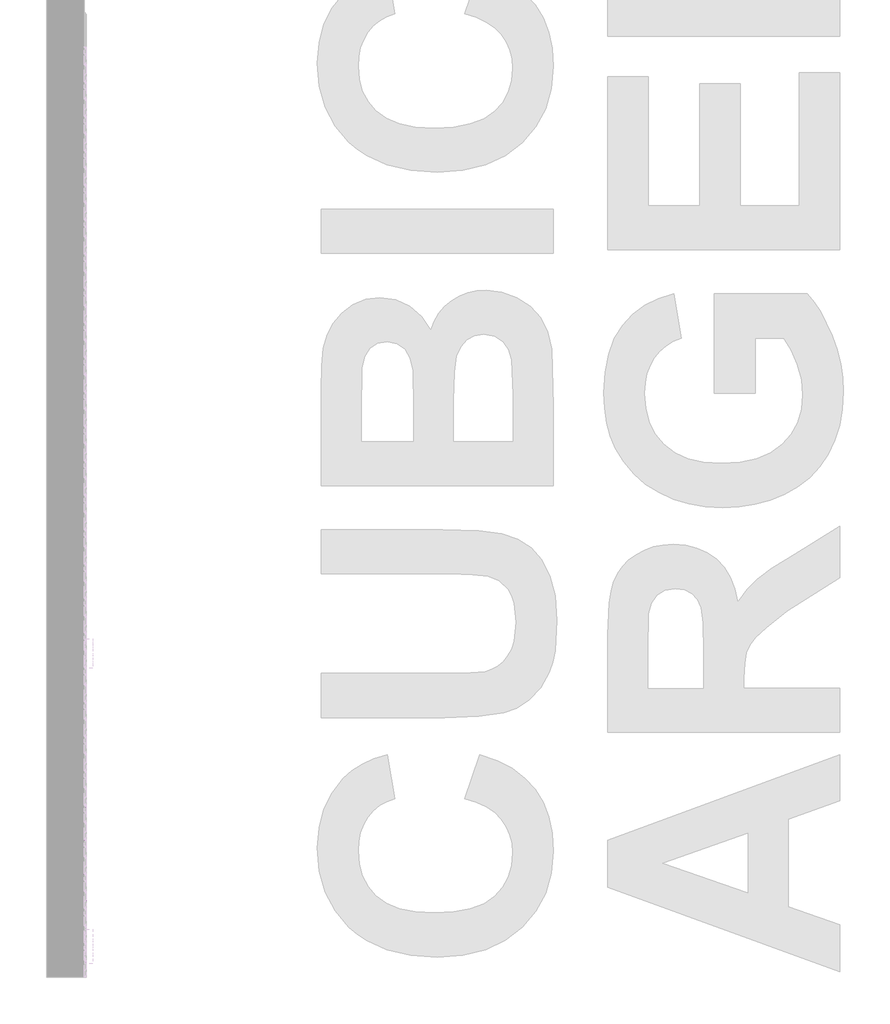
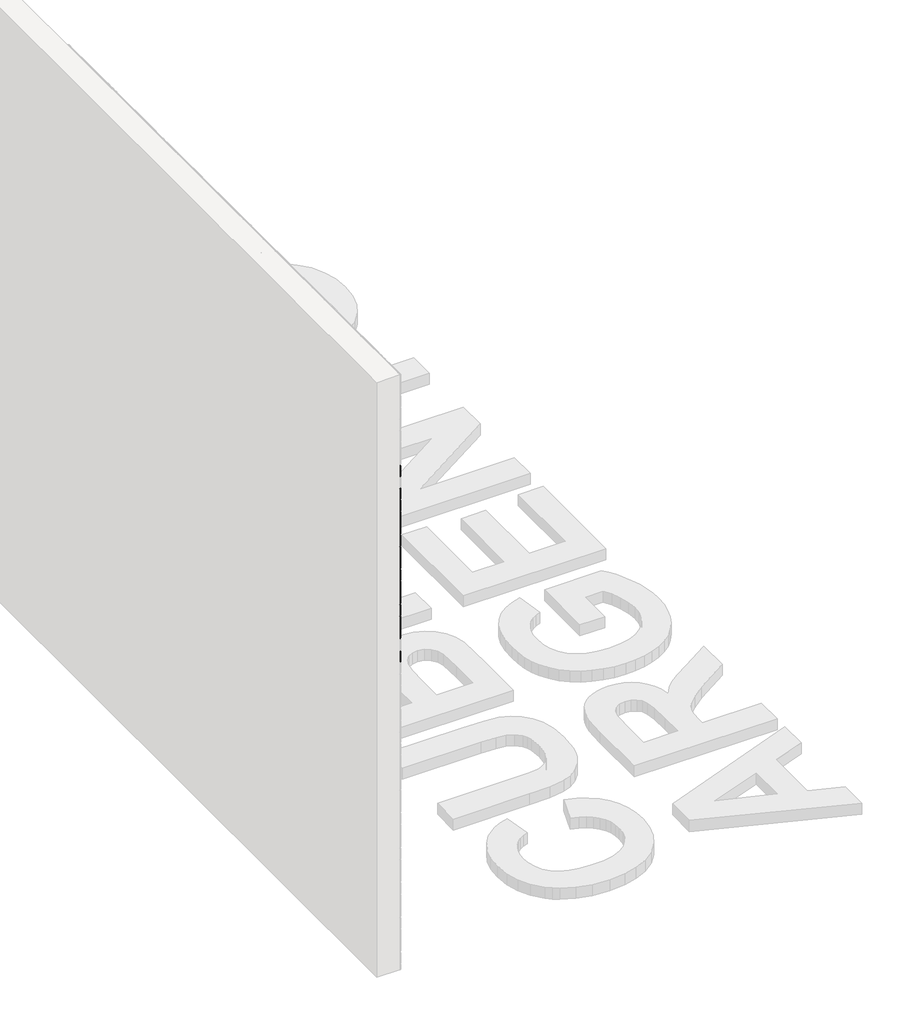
# One storey, part 3 of 121: 144 proxies.
"""IFC4 building model written with IfcOpenShell, lengths in millimetres."""

from ifc_helpers import new_model, si_unit, origin, place, context, project, spatial, transform, mapped, element, save
from components import generic_models_b2b2c5c1, generic_models_9bf73f6f, generic_models_5d175859, generic_models_45888c4d

model = new_model("IFC4")

# Units and contexts
model_context = context("Model", 3, world=origin())
ifc_project = project(units=[si_unit("LENGTHUNIT", "METRE", prefix="MILLI")], contexts=[model_context])

# Site, building, storey
site = spatial("IfcSite", under=ifc_project)
building = spatial("IfcBuilding", under=site)
storey = spatial("IfcBuildingStorey", under=building, Name="PORTOBELLO - SHOWROOM", Elevation=0.0)

# Proxies
placement = place(None, origin())
generic_models_shape = generic_models_b2b2c5c1(model_context)
element("IfcBuildingElementProxy", 1, Name="PBSHOP - CUBICA ARGENTO 4,8X8,3 : CUBICA ARGENTO - POSIÇÃO 01", ObjectType="PBSHOP - CUBICA ARGENTO 4,8X8,3 : CUBICA ARGENTO - POSIÇÃO 01", at=placement, inside=storey, context=model_context, shape_type="MappedRepresentation", body=[
    mapped(generic_models_shape, transform((150369.5341846, -6312.6129852, 1460.2456575), x_axis=(0.0, 1.0, 0.0), y_axis=(0.0, 0.0, 1.0), z_axis=(1.0, 0.0, 0.0))),
])
element("IfcBuildingElementProxy", 2, Name="PBSHOP - CUBICA ARGENTO 4,8X8,3 : CUBICA ARGENTO - POSIÇÃO 01", ObjectType="PBSHOP - CUBICA ARGENTO 4,8X8,3 : CUBICA ARGENTO - POSIÇÃO 01", at=placement, inside=storey, context=model_context, shape_type="MappedRepresentation", body=[
    mapped(generic_models_shape, transform((150369.5341846, -6221.7737159, 1460.2456575), x_axis=(0.0, 1.0, 0.0), y_axis=(0.0, 0.0, 1.0), z_axis=(1.0, 0.0, 0.0))),
])
element("IfcBuildingElementProxy", 3, Name="PBSHOP - CUBICA ARGENTO 4,8X8,3 : CUBICA ARGENTO - POSIÇÃO 01", ObjectType="PBSHOP - CUBICA ARGENTO 4,8X8,3 : CUBICA ARGENTO - POSIÇÃO 01", at=placement, inside=storey, context=model_context, shape_type="MappedRepresentation", body=[
    mapped(generic_models_shape, transform((150369.5341846, -6130.9344467, 1460.2456575), x_axis=(0.0, 1.0, 0.0), y_axis=(0.0, 0.0, 1.0), z_axis=(1.0, 0.0, 0.0))),
])
element("IfcBuildingElementProxy", 4, Name="PBSHOP - CUBICA ARGENTO 4,8X8,3 : CUBICA ARGENTO - POSIÇÃO 01", ObjectType="PBSHOP - CUBICA ARGENTO 4,8X8,3 : CUBICA ARGENTO - POSIÇÃO 01", at=placement, inside=storey, context=model_context, shape_type="MappedRepresentation", body=[
    mapped(generic_models_shape, transform((150369.5341846, -6040.0951775, 1460.2456575), x_axis=(0.0, 1.0, 0.0), y_axis=(0.0, 0.0, 1.0), z_axis=(1.0, 0.0, 0.0))),
])
element("IfcBuildingElementProxy", 5, Name="PBSHOP - CUBICA ARGENTO 4,8X8,3 : CUBICA ARGENTO - POSIÇÃO 01", ObjectType="PBSHOP - CUBICA ARGENTO 4,8X8,3 : CUBICA ARGENTO - POSIÇÃO 01", at=placement, inside=storey, context=model_context, shape_type="MappedRepresentation", body=[
    mapped(generic_models_shape, transform((150369.5341846, -6358.0326198, 1539.1802959), x_axis=(0.0, 1.0, 0.0), y_axis=(0.0, 0.0, 1.0), z_axis=(1.0, 0.0, 0.0))),
])
element("IfcBuildingElementProxy", 6, Name="PBSHOP - CUBICA ARGENTO 4,8X8,3 : CUBICA ARGENTO - POSIÇÃO 01", ObjectType="PBSHOP - CUBICA ARGENTO 4,8X8,3 : CUBICA ARGENTO - POSIÇÃO 01", at=placement, inside=storey, context=model_context, shape_type="MappedRepresentation", body=[
    mapped(generic_models_shape, transform((150369.5341846, -6267.1933506, 1539.1802959), x_axis=(0.0, 1.0, 0.0), y_axis=(0.0, 0.0, 1.0), z_axis=(1.0, 0.0, 0.0))),
])
element("IfcBuildingElementProxy", 7, Name="PBSHOP - CUBICA ARGENTO 4,8X8,3 : CUBICA ARGENTO - POSIÇÃO 01", ObjectType="PBSHOP - CUBICA ARGENTO 4,8X8,3 : CUBICA ARGENTO - POSIÇÃO 01", at=placement, inside=storey, context=model_context, shape_type="MappedRepresentation", body=[
    mapped(generic_models_shape, transform((150369.5341846, -6176.3540813, 1539.1802959), x_axis=(0.0, 1.0, 0.0), y_axis=(0.0, 0.0, 1.0), z_axis=(1.0, 0.0, 0.0))),
])
element("IfcBuildingElementProxy", 8, Name="PBSHOP - CUBICA ARGENTO 4,8X8,3 : CUBICA ARGENTO - POSIÇÃO 01", ObjectType="PBSHOP - CUBICA ARGENTO 4,8X8,3 : CUBICA ARGENTO - POSIÇÃO 01", at=placement, inside=storey, context=model_context, shape_type="MappedRepresentation", body=[
    mapped(generic_models_shape, transform((150369.5341846, -6085.5148121, 1539.1802959), x_axis=(0.0, 1.0, 0.0), y_axis=(0.0, 0.0, 1.0), z_axis=(1.0, 0.0, 0.0))),
])
element("IfcBuildingElementProxy", 9, Name="PBSHOP - CUBICA ARGENTO 4,8X8,3 : CUBICA ARGENTO - POSIÇÃO 01", ObjectType="PBSHOP - CUBICA ARGENTO 4,8X8,3 : CUBICA ARGENTO - POSIÇÃO 01", at=placement, inside=storey, context=model_context, shape_type="MappedRepresentation", body=[
    mapped(generic_models_shape, transform((150369.5341846, -6403.4522544, 1618.1149343), x_axis=(0.0, 1.0, 0.0), y_axis=(0.0, 0.0, 1.0), z_axis=(1.0, 0.0, 0.0))),
])
element("IfcBuildingElementProxy", 10, Name="PBSHOP - CUBICA ARGENTO 4,8X8,3 : CUBICA ARGENTO - POSIÇÃO 01", ObjectType="PBSHOP - CUBICA ARGENTO 4,8X8,3 : CUBICA ARGENTO - POSIÇÃO 01", at=placement, inside=storey, context=model_context, shape_type="MappedRepresentation", body=[
    mapped(generic_models_shape, transform((150369.5341846, -6312.6129852, 1618.1149343), x_axis=(0.0, 1.0, 0.0), y_axis=(0.0, 0.0, 1.0), z_axis=(1.0, 0.0, 0.0))),
])
element("IfcBuildingElementProxy", 11, Name="PBSHOP - CUBICA ARGENTO 4,8X8,3 : CUBICA ARGENTO - POSIÇÃO 01", ObjectType="PBSHOP - CUBICA ARGENTO 4,8X8,3 : CUBICA ARGENTO - POSIÇÃO 01", at=placement, inside=storey, context=model_context, shape_type="MappedRepresentation", body=[
    mapped(generic_models_shape, transform((150369.5341846, -6221.7737159, 1618.1149343), x_axis=(0.0, 1.0, 0.0), y_axis=(0.0, 0.0, 1.0), z_axis=(1.0, 0.0, 0.0))),
])
element("IfcBuildingElementProxy", 12, Name="PBSHOP - CUBICA ARGENTO 4,8X8,3 : CUBICA ARGENTO - POSIÇÃO 01", ObjectType="PBSHOP - CUBICA ARGENTO 4,8X8,3 : CUBICA ARGENTO - POSIÇÃO 01", at=placement, inside=storey, context=model_context, shape_type="MappedRepresentation", body=[
    mapped(generic_models_shape, transform((150369.5341846, -6130.9344467, 1618.1149343), x_axis=(0.0, 1.0, 0.0), y_axis=(0.0, 0.0, 1.0), z_axis=(1.0, 0.0, 0.0))),
])
element("IfcBuildingElementProxy", 13, Name="PBSHOP - CUBICA ARGENTO 4,8X8,3 : CUBICA ARGENTO - POSIÇÃO 01", ObjectType="PBSHOP - CUBICA ARGENTO 4,8X8,3 : CUBICA ARGENTO - POSIÇÃO 01", at=placement, inside=storey, context=model_context, shape_type="MappedRepresentation", body=[
    mapped(generic_models_shape, transform((150369.5341846, -6040.0951775, 1618.1149343), x_axis=(0.0, 1.0, 0.0), y_axis=(0.0, 0.0, 1.0), z_axis=(1.0, 0.0, 0.0))),
])
element("IfcBuildingElementProxy", 14, Name="PBSHOP - CUBICA ARGENTO 4,8X8,3 : CUBICA ARGENTO - POSIÇÃO 01", ObjectType="PBSHOP - CUBICA ARGENTO 4,8X8,3 : CUBICA ARGENTO - POSIÇÃO 01", at=placement, inside=storey, context=model_context, shape_type="MappedRepresentation", body=[
    mapped(generic_models_shape, transform((150369.5341846, -6358.0326198, 1697.0495727), x_axis=(0.0, 1.0, 0.0), y_axis=(0.0, 0.0, 1.0), z_axis=(1.0, 0.0, 0.0))),
])
element("IfcBuildingElementProxy", 15, Name="PBSHOP - CUBICA ARGENTO 4,8X8,3 : CUBICA ARGENTO - POSIÇÃO 01", ObjectType="PBSHOP - CUBICA ARGENTO 4,8X8,3 : CUBICA ARGENTO - POSIÇÃO 01", at=placement, inside=storey, context=model_context, shape_type="MappedRepresentation", body=[
    mapped(generic_models_shape, transform((150369.5341846, -6267.1933506, 1697.0495727), x_axis=(0.0, 1.0, 0.0), y_axis=(0.0, 0.0, 1.0), z_axis=(1.0, 0.0, 0.0))),
])
element("IfcBuildingElementProxy", 16, Name="PBSHOP - CUBICA ARGENTO 4,8X8,3 : CUBICA ARGENTO - POSIÇÃO 01", ObjectType="PBSHOP - CUBICA ARGENTO 4,8X8,3 : CUBICA ARGENTO - POSIÇÃO 01", at=placement, inside=storey, context=model_context, shape_type="MappedRepresentation", body=[
    mapped(generic_models_shape, transform((150369.5341846, -6176.3540813, 1697.0495727), x_axis=(0.0, 1.0, 0.0), y_axis=(0.0, 0.0, 1.0), z_axis=(1.0, 0.0, 0.0))),
])
element("IfcBuildingElementProxy", 17, Name="PBSHOP - CUBICA ARGENTO 4,8X8,3 : CUBICA ARGENTO - POSIÇÃO 01", ObjectType="PBSHOP - CUBICA ARGENTO 4,8X8,3 : CUBICA ARGENTO - POSIÇÃO 01", at=placement, inside=storey, context=model_context, shape_type="MappedRepresentation", body=[
    mapped(generic_models_shape, transform((150369.5341846, -6085.5148121, 1697.0495727), x_axis=(0.0, 1.0, 0.0), y_axis=(0.0, 0.0, 1.0), z_axis=(1.0, 0.0, 0.0))),
])
element("IfcBuildingElementProxy", 18, Name="PBSHOP - CUBICA ARGENTO 4,8X8,3 : CUBICA ARGENTO - POSIÇÃO 01", ObjectType="PBSHOP - CUBICA ARGENTO 4,8X8,3 : CUBICA ARGENTO - POSIÇÃO 01", at=placement, inside=storey, context=model_context, shape_type="MappedRepresentation", body=[
    mapped(generic_models_shape, transform((150369.5341846, -6403.4522544, 1775.984211), x_axis=(0.0, 1.0, 0.0), y_axis=(0.0, 0.0, 1.0), z_axis=(1.0, 0.0, 0.0))),
])
element("IfcBuildingElementProxy", 19, Name="PBSHOP - CUBICA ARGENTO 4,8X8,3 : CUBICA ARGENTO - POSIÇÃO 01", ObjectType="PBSHOP - CUBICA ARGENTO 4,8X8,3 : CUBICA ARGENTO - POSIÇÃO 01", at=placement, inside=storey, context=model_context, shape_type="MappedRepresentation", body=[
    mapped(generic_models_shape, transform((150369.5341846, -6312.6129852, 1775.984211), x_axis=(0.0, 1.0, 0.0), y_axis=(0.0, 0.0, 1.0), z_axis=(1.0, 0.0, 0.0))),
])
element("IfcBuildingElementProxy", 20, Name="PBSHOP - CUBICA ARGENTO 4,8X8,3 : CUBICA ARGENTO - POSIÇÃO 01", ObjectType="PBSHOP - CUBICA ARGENTO 4,8X8,3 : CUBICA ARGENTO - POSIÇÃO 01", at=placement, inside=storey, context=model_context, shape_type="MappedRepresentation", body=[
    mapped(generic_models_shape, transform((150369.5341846, -6221.7737159, 1775.984211), x_axis=(0.0, 1.0, 0.0), y_axis=(0.0, 0.0, 1.0), z_axis=(1.0, 0.0, 0.0))),
])
element("IfcBuildingElementProxy", 21, Name="PBSHOP - CUBICA ARGENTO 4,8X8,3 : CUBICA ARGENTO - POSIÇÃO 01", ObjectType="PBSHOP - CUBICA ARGENTO 4,8X8,3 : CUBICA ARGENTO - POSIÇÃO 01", at=placement, inside=storey, context=model_context, shape_type="MappedRepresentation", body=[
    mapped(generic_models_shape, transform((150369.5341846, -6130.9344467, 1775.984211), x_axis=(0.0, 1.0, 0.0), y_axis=(0.0, 0.0, 1.0), z_axis=(1.0, 0.0, 0.0))),
])
element("IfcBuildingElementProxy", 22, Name="PBSHOP - CUBICA ARGENTO 4,8X8,3 : CUBICA ARGENTO - POSIÇÃO 01", ObjectType="PBSHOP - CUBICA ARGENTO 4,8X8,3 : CUBICA ARGENTO - POSIÇÃO 01", at=placement, inside=storey, context=model_context, shape_type="MappedRepresentation", body=[
    mapped(generic_models_shape, transform((150369.5341846, -6040.0951775, 1775.984211), x_axis=(0.0, 1.0, 0.0), y_axis=(0.0, 0.0, 1.0), z_axis=(1.0, 0.0, 0.0))),
])
element("IfcBuildingElementProxy", 23, Name="PBSHOP - CUBICA ARGENTO 4,8X8,3 : CUBICA ARGENTO - POSIÇÃO 01", ObjectType="PBSHOP - CUBICA ARGENTO 4,8X8,3 : CUBICA ARGENTO - POSIÇÃO 01", at=placement, inside=storey, context=model_context, shape_type="MappedRepresentation", body=[
    mapped(generic_models_shape, transform((150369.5341846, -6358.0326198, 1854.9188494), x_axis=(0.0, 1.0, 0.0), y_axis=(0.0, 0.0, 1.0), z_axis=(1.0, 0.0, 0.0))),
])
element("IfcBuildingElementProxy", 24, Name="PBSHOP - CUBICA ARGENTO 4,8X8,3 : CUBICA ARGENTO - POSIÇÃO 01", ObjectType="PBSHOP - CUBICA ARGENTO 4,8X8,3 : CUBICA ARGENTO - POSIÇÃO 01", at=placement, inside=storey, context=model_context, shape_type="MappedRepresentation", body=[
    mapped(generic_models_shape, transform((150369.5341846, -6267.1933506, 1854.9188494), x_axis=(0.0, 1.0, 0.0), y_axis=(0.0, 0.0, 1.0), z_axis=(1.0, 0.0, 0.0))),
])
element("IfcBuildingElementProxy", 25, Name="PBSHOP - CUBICA ARGENTO 4,8X8,3 : CUBICA ARGENTO - POSIÇÃO 01", ObjectType="PBSHOP - CUBICA ARGENTO 4,8X8,3 : CUBICA ARGENTO - POSIÇÃO 01", at=placement, inside=storey, context=model_context, shape_type="MappedRepresentation", body=[
    mapped(generic_models_shape, transform((150369.5341846, -6176.3540813, 1854.9188494), x_axis=(0.0, 1.0, 0.0), y_axis=(0.0, 0.0, 1.0), z_axis=(1.0, 0.0, 0.0))),
])
element("IfcBuildingElementProxy", 26, Name="PBSHOP - CUBICA ARGENTO 4,8X8,3 : CUBICA ARGENTO - POSIÇÃO 01", ObjectType="PBSHOP - CUBICA ARGENTO 4,8X8,3 : CUBICA ARGENTO - POSIÇÃO 01", at=placement, inside=storey, context=model_context, shape_type="MappedRepresentation", body=[
    mapped(generic_models_shape, transform((150369.5341846, -6085.5148121, 1854.9188494), x_axis=(0.0, 1.0, 0.0), y_axis=(0.0, 0.0, 1.0), z_axis=(1.0, 0.0, 0.0))),
])
element("IfcBuildingElementProxy", 27, Name="PBSHOP - CUBICA ARGENTO 4,8X8,3 : CUBICA ARGENTO - POSIÇÃO 01", ObjectType="PBSHOP - CUBICA ARGENTO 4,8X8,3 : CUBICA ARGENTO - POSIÇÃO 01", at=placement, inside=storey, context=model_context, shape_type="MappedRepresentation", body=[
    mapped(generic_models_shape, transform((150369.5341846, -6403.4522544, 1933.8534878), x_axis=(0.0, 1.0, 0.0), y_axis=(0.0, 0.0, 1.0), z_axis=(1.0, 0.0, 0.0))),
])
element("IfcBuildingElementProxy", 28, Name="PBSHOP - CUBICA ARGENTO 4,8X8,3 : CUBICA ARGENTO - POSIÇÃO 01", ObjectType="PBSHOP - CUBICA ARGENTO 4,8X8,3 : CUBICA ARGENTO - POSIÇÃO 01", at=placement, inside=storey, context=model_context, shape_type="MappedRepresentation", body=[
    mapped(generic_models_shape, transform((150369.5341846, -6312.6129852, 1933.8534878), x_axis=(0.0, 1.0, 0.0), y_axis=(0.0, 0.0, 1.0), z_axis=(1.0, 0.0, 0.0))),
])
element("IfcBuildingElementProxy", 29, Name="PBSHOP - CUBICA ARGENTO 4,8X8,3 : CUBICA ARGENTO - POSIÇÃO 01", ObjectType="PBSHOP - CUBICA ARGENTO 4,8X8,3 : CUBICA ARGENTO - POSIÇÃO 01", at=placement, inside=storey, context=model_context, shape_type="MappedRepresentation", body=[
    mapped(generic_models_shape, transform((150369.5341846, -6221.7737159, 1933.8534878), x_axis=(0.0, 1.0, 0.0), y_axis=(0.0, 0.0, 1.0), z_axis=(1.0, 0.0, 0.0))),
])
element("IfcBuildingElementProxy", 30, Name="PBSHOP - CUBICA ARGENTO 4,8X8,3 : CUBICA ARGENTO - POSIÇÃO 01", ObjectType="PBSHOP - CUBICA ARGENTO 4,8X8,3 : CUBICA ARGENTO - POSIÇÃO 01", at=placement, inside=storey, context=model_context, shape_type="MappedRepresentation", body=[
    mapped(generic_models_shape, transform((150369.5341846, -6130.9344467, 1933.8534878), x_axis=(0.0, 1.0, 0.0), y_axis=(0.0, 0.0, 1.0), z_axis=(1.0, 0.0, 0.0))),
])
element("IfcBuildingElementProxy", 31, Name="PBSHOP - CUBICA ARGENTO 4,8X8,3 : CUBICA ARGENTO - POSIÇÃO 01", ObjectType="PBSHOP - CUBICA ARGENTO 4,8X8,3 : CUBICA ARGENTO - POSIÇÃO 01", at=placement, inside=storey, context=model_context, shape_type="MappedRepresentation", body=[
    mapped(generic_models_shape, transform((150369.5341846, -6040.0951775, 1933.8534878), x_axis=(0.0, 1.0, 0.0), y_axis=(0.0, 0.0, 1.0), z_axis=(1.0, 0.0, 0.0))),
])
element("IfcBuildingElementProxy", 32, Name="PBSHOP - CUBICA ARGENTO 4,8X8,3 : CUBICA ARGENTO - POSIÇÃO 01", ObjectType="PBSHOP - CUBICA ARGENTO 4,8X8,3 : CUBICA ARGENTO - POSIÇÃO 01", at=placement, inside=storey, context=model_context, shape_type="MappedRepresentation", body=[
    mapped(generic_models_shape, transform((150369.5341846, -6358.0326198, 2012.7881262), x_axis=(0.0, 1.0, 0.0), y_axis=(0.0, 0.0, 1.0), z_axis=(1.0, 0.0, 0.0))),
])
element("IfcBuildingElementProxy", 33, Name="PBSHOP - CUBICA ARGENTO 4,8X8,3 : CUBICA ARGENTO - POSIÇÃO 01", ObjectType="PBSHOP - CUBICA ARGENTO 4,8X8,3 : CUBICA ARGENTO - POSIÇÃO 01", at=placement, inside=storey, context=model_context, shape_type="MappedRepresentation", body=[
    mapped(generic_models_shape, transform((150369.5341846, -6267.1933506, 2012.7881262), x_axis=(0.0, 1.0, 0.0), y_axis=(0.0, 0.0, 1.0), z_axis=(1.0, 0.0, 0.0))),
])
element("IfcBuildingElementProxy", 34, Name="PBSHOP - CUBICA ARGENTO 4,8X8,3 : CUBICA ARGENTO - POSIÇÃO 01", ObjectType="PBSHOP - CUBICA ARGENTO 4,8X8,3 : CUBICA ARGENTO - POSIÇÃO 01", at=placement, inside=storey, context=model_context, shape_type="MappedRepresentation", body=[
    mapped(generic_models_shape, transform((150369.5341846, -6176.3540813, 2012.7881262), x_axis=(0.0, 1.0, 0.0), y_axis=(0.0, 0.0, 1.0), z_axis=(1.0, 0.0, 0.0))),
])
element("IfcBuildingElementProxy", 35, Name="PBSHOP - CUBICA ARGENTO 4,8X8,3 : CUBICA ARGENTO - POSIÇÃO 01", ObjectType="PBSHOP - CUBICA ARGENTO 4,8X8,3 : CUBICA ARGENTO - POSIÇÃO 01", at=placement, inside=storey, context=model_context, shape_type="MappedRepresentation", body=[
    mapped(generic_models_shape, transform((150369.5341846, -6085.5148121, 2012.7881262), x_axis=(0.0, 1.0, 0.0), y_axis=(0.0, 0.0, 1.0), z_axis=(1.0, 0.0, 0.0))),
])
element("IfcBuildingElementProxy", 36, Name="PBSHOP - CUBICA ARGENTO 4,8X8,3 : CUBICA ARGENTO - POSIÇÃO 01", ObjectType="PBSHOP - CUBICA ARGENTO 4,8X8,3 : CUBICA ARGENTO - POSIÇÃO 01", at=placement, inside=storey, context=model_context, shape_type="MappedRepresentation", body=[
    mapped(generic_models_shape, transform((150369.5341846, -6403.4522544, 2091.7227645), x_axis=(0.0, 1.0, 0.0), y_axis=(0.0, 0.0, 1.0), z_axis=(1.0, 0.0, 0.0))),
])
element("IfcBuildingElementProxy", 37, Name="PBSHOP - CUBICA ARGENTO 4,8X8,3 : CUBICA ARGENTO - POSIÇÃO 01", ObjectType="PBSHOP - CUBICA ARGENTO 4,8X8,3 : CUBICA ARGENTO - POSIÇÃO 01", at=placement, inside=storey, context=model_context, shape_type="MappedRepresentation", body=[
    mapped(generic_models_shape, transform((150369.5341846, -6312.6129852, 2091.7227645), x_axis=(0.0, 1.0, 0.0), y_axis=(0.0, 0.0, 1.0), z_axis=(1.0, 0.0, 0.0))),
])
element("IfcBuildingElementProxy", 38, Name="PBSHOP - CUBICA ARGENTO 4,8X8,3 : CUBICA ARGENTO - POSIÇÃO 01", ObjectType="PBSHOP - CUBICA ARGENTO 4,8X8,3 : CUBICA ARGENTO - POSIÇÃO 01", at=placement, inside=storey, context=model_context, shape_type="MappedRepresentation", body=[
    mapped(generic_models_shape, transform((150369.5341846, -6221.7737159, 2091.7227645), x_axis=(0.0, 1.0, 0.0), y_axis=(0.0, 0.0, 1.0), z_axis=(1.0, 0.0, 0.0))),
])
element("IfcBuildingElementProxy", 39, Name="PBSHOP - CUBICA ARGENTO 4,8X8,3 : CUBICA ARGENTO - POSIÇÃO 01", ObjectType="PBSHOP - CUBICA ARGENTO 4,8X8,3 : CUBICA ARGENTO - POSIÇÃO 01", at=placement, inside=storey, context=model_context, shape_type="MappedRepresentation", body=[
    mapped(generic_models_shape, transform((150369.5341846, -6130.9344467, 2091.7227645), x_axis=(0.0, 1.0, 0.0), y_axis=(0.0, 0.0, 1.0), z_axis=(1.0, 0.0, 0.0))),
])
element("IfcBuildingElementProxy", 40, Name="PBSHOP - CUBICA ARGENTO 4,8X8,3 : CUBICA ARGENTO - POSIÇÃO 01", ObjectType="PBSHOP - CUBICA ARGENTO 4,8X8,3 : CUBICA ARGENTO - POSIÇÃO 01", at=placement, inside=storey, context=model_context, shape_type="MappedRepresentation", body=[
    mapped(generic_models_shape, transform((150369.5341846, -6040.0951775, 2091.7227645), x_axis=(0.0, 1.0, 0.0), y_axis=(0.0, 0.0, 1.0), z_axis=(1.0, 0.0, 0.0))),
])
element("IfcBuildingElementProxy", 41, Name="PBSHOP - CUBICA ARGENTO 4,8X8,3 : CUBICA ARGENTO - POSIÇÃO 01", ObjectType="PBSHOP - CUBICA ARGENTO 4,8X8,3 : CUBICA ARGENTO - POSIÇÃO 01", at=placement, inside=storey, context=model_context, shape_type="MappedRepresentation", body=[
    mapped(generic_models_shape, transform((150369.5341846, -6358.0326198, 2170.6574029), x_axis=(0.0, 1.0, 0.0), y_axis=(0.0, 0.0, 1.0), z_axis=(1.0, 0.0, 0.0))),
])
element("IfcBuildingElementProxy", 42, Name="PBSHOP - CUBICA ARGENTO 4,8X8,3 : CUBICA ARGENTO - POSIÇÃO 01", ObjectType="PBSHOP - CUBICA ARGENTO 4,8X8,3 : CUBICA ARGENTO - POSIÇÃO 01", at=placement, inside=storey, context=model_context, shape_type="MappedRepresentation", body=[
    mapped(generic_models_shape, transform((150369.5341846, -6267.1933506, 2170.6574029), x_axis=(0.0, 1.0, 0.0), y_axis=(0.0, 0.0, 1.0), z_axis=(1.0, 0.0, 0.0))),
])
element("IfcBuildingElementProxy", 43, Name="PBSHOP - CUBICA ARGENTO 4,8X8,3 : CUBICA ARGENTO - POSIÇÃO 01", ObjectType="PBSHOP - CUBICA ARGENTO 4,8X8,3 : CUBICA ARGENTO - POSIÇÃO 01", at=placement, inside=storey, context=model_context, shape_type="MappedRepresentation", body=[
    mapped(generic_models_shape, transform((150369.5341846, -6176.3540813, 2170.6574029), x_axis=(0.0, 1.0, 0.0), y_axis=(0.0, 0.0, 1.0), z_axis=(1.0, 0.0, 0.0))),
])
element("IfcBuildingElementProxy", 44, Name="PBSHOP - CUBICA ARGENTO 4,8X8,3 : CUBICA ARGENTO - POSIÇÃO 01", ObjectType="PBSHOP - CUBICA ARGENTO 4,8X8,3 : CUBICA ARGENTO - POSIÇÃO 01", at=placement, inside=storey, context=model_context, shape_type="MappedRepresentation", body=[
    mapped(generic_models_shape, transform((150369.5341846, -6085.5148121, 2170.6574029), x_axis=(0.0, 1.0, 0.0), y_axis=(0.0, 0.0, 1.0), z_axis=(1.0, 0.0, 0.0))),
])
element("IfcBuildingElementProxy", 45, Name="PBSHOP - CUBICA ARGENTO 4,8X8,3 : CUBICA ARGENTO - POSIÇÃO 01", ObjectType="PBSHOP - CUBICA ARGENTO 4,8X8,3 : CUBICA ARGENTO - POSIÇÃO 01", at=placement, inside=storey, context=model_context, shape_type="MappedRepresentation", body=[
    mapped(generic_models_shape, transform((150369.5341846, -6403.4522544, 2249.5920413), x_axis=(0.0, 1.0, 0.0), y_axis=(0.0, 0.0, 1.0), z_axis=(1.0, 0.0, 0.0))),
])
element("IfcBuildingElementProxy", 46, Name="PBSHOP - CUBICA ARGENTO 4,8X8,3 : CUBICA ARGENTO - POSIÇÃO 01", ObjectType="PBSHOP - CUBICA ARGENTO 4,8X8,3 : CUBICA ARGENTO - POSIÇÃO 01", at=placement, inside=storey, context=model_context, shape_type="MappedRepresentation", body=[
    mapped(generic_models_shape, transform((150369.5341846, -6312.6129852, 2249.5920413), x_axis=(0.0, 1.0, 0.0), y_axis=(0.0, 0.0, 1.0), z_axis=(1.0, 0.0, 0.0))),
])
element("IfcBuildingElementProxy", 47, Name="PBSHOP - CUBICA ARGENTO 4,8X8,3 : CUBICA ARGENTO - POSIÇÃO 01", ObjectType="PBSHOP - CUBICA ARGENTO 4,8X8,3 : CUBICA ARGENTO - POSIÇÃO 01", at=placement, inside=storey, context=model_context, shape_type="MappedRepresentation", body=[
    mapped(generic_models_shape, transform((150369.5341846, -6221.7737159, 2249.5920413), x_axis=(0.0, 1.0, 0.0), y_axis=(0.0, 0.0, 1.0), z_axis=(1.0, 0.0, 0.0))),
])
generic_models_2_shape = generic_models_9bf73f6f(model_context)
element("IfcBuildingElementProxy", 48, Name="PBSHOP - CUBICA ARGENTO 4,8X8,3 : CUBICA ARGENTO - POSIÇÃO 03", ObjectType="PBSHOP - CUBICA ARGENTO 4,8X8,3 : CUBICA ARGENTO - POSIÇÃO 03", at=placement, inside=storey, context=model_context, shape_type="MappedRepresentation", body=[
    mapped(generic_models_2_shape, transform((150369.5341846, -6335.3206433, 1420.7371279), x_axis=(0.0, 1.0, 0.0), y_axis=(0.0, 0.0, 1.0), z_axis=(1.0, 0.0, 0.0))),
])
element("IfcBuildingElementProxy", 49, Name="PBSHOP - CUBICA ARGENTO 4,8X8,3 : CUBICA ARGENTO - POSIÇÃO 03", ObjectType="PBSHOP - CUBICA ARGENTO 4,8X8,3 : CUBICA ARGENTO - POSIÇÃO 03", at=placement, inside=storey, context=model_context, shape_type="MappedRepresentation", body=[
    mapped(generic_models_2_shape, transform((150369.5341846, -6244.4813741, 1420.7371279), x_axis=(0.0, 1.0, 0.0), y_axis=(0.0, 0.0, 1.0), z_axis=(1.0, 0.0, 0.0))),
])
element("IfcBuildingElementProxy", 50, Name="PBSHOP - CUBICA ARGENTO 4,8X8,3 : CUBICA ARGENTO - POSIÇÃO 03", ObjectType="PBSHOP - CUBICA ARGENTO 4,8X8,3 : CUBICA ARGENTO - POSIÇÃO 03", at=placement, inside=storey, context=model_context, shape_type="MappedRepresentation", body=[
    mapped(generic_models_2_shape, transform((150369.5341846, -6153.6421048, 1420.7371279), x_axis=(0.0, 1.0, 0.0), y_axis=(0.0, 0.0, 1.0), z_axis=(1.0, 0.0, 0.0))),
])
element("IfcBuildingElementProxy", 51, Name="PBSHOP - CUBICA ARGENTO 4,8X8,3 : CUBICA ARGENTO - POSIÇÃO 03", ObjectType="PBSHOP - CUBICA ARGENTO 4,8X8,3 : CUBICA ARGENTO - POSIÇÃO 03", at=placement, inside=storey, context=model_context, shape_type="MappedRepresentation", body=[
    mapped(generic_models_2_shape, transform((150369.5341846, -6062.8028356, 1420.7371279), x_axis=(0.0, 1.0, 0.0), y_axis=(0.0, 0.0, 1.0), z_axis=(1.0, 0.0, 0.0))),
])
element("IfcBuildingElementProxy", 52, Name="PBSHOP - CUBICA ARGENTO 4,8X8,3 : CUBICA ARGENTO - POSIÇÃO 03", ObjectType="PBSHOP - CUBICA ARGENTO 4,8X8,3 : CUBICA ARGENTO - POSIÇÃO 03", at=placement, inside=storey, context=model_context, shape_type="MappedRepresentation", body=[
    mapped(generic_models_2_shape, transform((150369.5341846, -6380.740278, 1499.6717663), x_axis=(0.0, 1.0, 0.0), y_axis=(0.0, 0.0, 1.0), z_axis=(1.0, 0.0, 0.0))),
])
element("IfcBuildingElementProxy", 53, Name="PBSHOP - CUBICA ARGENTO 4,8X8,3 : CUBICA ARGENTO - POSIÇÃO 03", ObjectType="PBSHOP - CUBICA ARGENTO 4,8X8,3 : CUBICA ARGENTO - POSIÇÃO 03", at=placement, inside=storey, context=model_context, shape_type="MappedRepresentation", body=[
    mapped(generic_models_2_shape, transform((150369.5341846, -6289.9010087, 1499.6717663), x_axis=(0.0, 1.0, 0.0), y_axis=(0.0, 0.0, 1.0), z_axis=(1.0, 0.0, 0.0))),
])
element("IfcBuildingElementProxy", 54, Name="PBSHOP - CUBICA ARGENTO 4,8X8,3 : CUBICA ARGENTO - POSIÇÃO 03", ObjectType="PBSHOP - CUBICA ARGENTO 4,8X8,3 : CUBICA ARGENTO - POSIÇÃO 03", at=placement, inside=storey, context=model_context, shape_type="MappedRepresentation", body=[
    mapped(generic_models_2_shape, transform((150369.5341846, -6199.0617395, 1499.6717663), x_axis=(0.0, 1.0, 0.0), y_axis=(0.0, 0.0, 1.0), z_axis=(1.0, 0.0, 0.0))),
])
element("IfcBuildingElementProxy", 55, Name="PBSHOP - CUBICA ARGENTO 4,8X8,3 : CUBICA ARGENTO - POSIÇÃO 03", ObjectType="PBSHOP - CUBICA ARGENTO 4,8X8,3 : CUBICA ARGENTO - POSIÇÃO 03", at=placement, inside=storey, context=model_context, shape_type="MappedRepresentation", body=[
    mapped(generic_models_2_shape, transform((150369.5341846, -6108.2224702, 1499.6717663), x_axis=(0.0, 1.0, 0.0), y_axis=(0.0, 0.0, 1.0), z_axis=(1.0, 0.0, 0.0))),
])
element("IfcBuildingElementProxy", 56, Name="PBSHOP - CUBICA ARGENTO 4,8X8,3 : CUBICA ARGENTO - POSIÇÃO 03", ObjectType="PBSHOP - CUBICA ARGENTO 4,8X8,3 : CUBICA ARGENTO - POSIÇÃO 03", at=placement, inside=storey, context=model_context, shape_type="MappedRepresentation", body=[
    mapped(generic_models_2_shape, transform((150369.5341846, -6017.383201, 1499.6717663), x_axis=(0.0, 1.0, 0.0), y_axis=(0.0, 0.0, 1.0), z_axis=(1.0, 0.0, 0.0))),
])
element("IfcBuildingElementProxy", 57, Name="PBSHOP - CUBICA ARGENTO 4,8X8,3 : CUBICA ARGENTO - POSIÇÃO 03", ObjectType="PBSHOP - CUBICA ARGENTO 4,8X8,3 : CUBICA ARGENTO - POSIÇÃO 03", at=placement, inside=storey, context=model_context, shape_type="MappedRepresentation", body=[
    mapped(generic_models_2_shape, transform((150369.5341846, -6335.3206433, 1578.6064047), x_axis=(0.0, 1.0, 0.0), y_axis=(0.0, 0.0, 1.0), z_axis=(1.0, 0.0, 0.0))),
])
element("IfcBuildingElementProxy", 58, Name="PBSHOP - CUBICA ARGENTO 4,8X8,3 : CUBICA ARGENTO - POSIÇÃO 03", ObjectType="PBSHOP - CUBICA ARGENTO 4,8X8,3 : CUBICA ARGENTO - POSIÇÃO 03", at=placement, inside=storey, context=model_context, shape_type="MappedRepresentation", body=[
    mapped(generic_models_2_shape, transform((150369.5341846, -6244.4813741, 1578.6064047), x_axis=(0.0, 1.0, 0.0), y_axis=(0.0, 0.0, 1.0), z_axis=(1.0, 0.0, 0.0))),
])
element("IfcBuildingElementProxy", 59, Name="PBSHOP - CUBICA ARGENTO 4,8X8,3 : CUBICA ARGENTO - POSIÇÃO 03", ObjectType="PBSHOP - CUBICA ARGENTO 4,8X8,3 : CUBICA ARGENTO - POSIÇÃO 03", at=placement, inside=storey, context=model_context, shape_type="MappedRepresentation", body=[
    mapped(generic_models_2_shape, transform((150369.5341846, -6153.6421048, 1578.6064047), x_axis=(0.0, 1.0, 0.0), y_axis=(0.0, 0.0, 1.0), z_axis=(1.0, 0.0, 0.0))),
])
element("IfcBuildingElementProxy", 60, Name="PBSHOP - CUBICA ARGENTO 4,8X8,3 : CUBICA ARGENTO - POSIÇÃO 03", ObjectType="PBSHOP - CUBICA ARGENTO 4,8X8,3 : CUBICA ARGENTO - POSIÇÃO 03", at=placement, inside=storey, context=model_context, shape_type="MappedRepresentation", body=[
    mapped(generic_models_2_shape, transform((150369.5341846, -6062.8028356, 1578.6064047), x_axis=(0.0, 1.0, 0.0), y_axis=(0.0, 0.0, 1.0), z_axis=(1.0, 0.0, 0.0))),
])
element("IfcBuildingElementProxy", 61, Name="PBSHOP - CUBICA ARGENTO 4,8X8,3 : CUBICA ARGENTO - POSIÇÃO 03", ObjectType="PBSHOP - CUBICA ARGENTO 4,8X8,3 : CUBICA ARGENTO - POSIÇÃO 03", at=placement, inside=storey, context=model_context, shape_type="MappedRepresentation", body=[
    mapped(generic_models_2_shape, transform((150369.5341846, -6380.740278, 1657.5410431), x_axis=(0.0, 1.0, 0.0), y_axis=(0.0, 0.0, 1.0), z_axis=(1.0, 0.0, 0.0))),
])
element("IfcBuildingElementProxy", 62, Name="PBSHOP - CUBICA ARGENTO 4,8X8,3 : CUBICA ARGENTO - POSIÇÃO 03", ObjectType="PBSHOP - CUBICA ARGENTO 4,8X8,3 : CUBICA ARGENTO - POSIÇÃO 03", at=placement, inside=storey, context=model_context, shape_type="MappedRepresentation", body=[
    mapped(generic_models_2_shape, transform((150369.5341846, -6289.9010087, 1657.5410431), x_axis=(0.0, 1.0, 0.0), y_axis=(0.0, 0.0, 1.0), z_axis=(1.0, 0.0, 0.0))),
])
element("IfcBuildingElementProxy", 63, Name="PBSHOP - CUBICA ARGENTO 4,8X8,3 : CUBICA ARGENTO - POSIÇÃO 03", ObjectType="PBSHOP - CUBICA ARGENTO 4,8X8,3 : CUBICA ARGENTO - POSIÇÃO 03", at=placement, inside=storey, context=model_context, shape_type="MappedRepresentation", body=[
    mapped(generic_models_2_shape, transform((150369.5341846, -6199.0617395, 1657.5410431), x_axis=(0.0, 1.0, 0.0), y_axis=(0.0, 0.0, 1.0), z_axis=(1.0, 0.0, 0.0))),
])
element("IfcBuildingElementProxy", 64, Name="PBSHOP - CUBICA ARGENTO 4,8X8,3 : CUBICA ARGENTO - POSIÇÃO 03", ObjectType="PBSHOP - CUBICA ARGENTO 4,8X8,3 : CUBICA ARGENTO - POSIÇÃO 03", at=placement, inside=storey, context=model_context, shape_type="MappedRepresentation", body=[
    mapped(generic_models_2_shape, transform((150369.5341846, -6108.2224702, 1657.5410431), x_axis=(0.0, 1.0, 0.0), y_axis=(0.0, 0.0, 1.0), z_axis=(1.0, 0.0, 0.0))),
])
element("IfcBuildingElementProxy", 65, Name="PBSHOP - CUBICA ARGENTO 4,8X8,3 : CUBICA ARGENTO - POSIÇÃO 03", ObjectType="PBSHOP - CUBICA ARGENTO 4,8X8,3 : CUBICA ARGENTO - POSIÇÃO 03", at=placement, inside=storey, context=model_context, shape_type="MappedRepresentation", body=[
    mapped(generic_models_2_shape, transform((150369.5341846, -6017.383201, 1657.5410431), x_axis=(0.0, 1.0, 0.0), y_axis=(0.0, 0.0, 1.0), z_axis=(1.0, 0.0, 0.0))),
])
element("IfcBuildingElementProxy", 66, Name="PBSHOP - CUBICA ARGENTO 4,8X8,3 : CUBICA ARGENTO - POSIÇÃO 03", ObjectType="PBSHOP - CUBICA ARGENTO 4,8X8,3 : CUBICA ARGENTO - POSIÇÃO 03", at=placement, inside=storey, context=model_context, shape_type="MappedRepresentation", body=[
    mapped(generic_models_2_shape, transform((150369.5341846, -6335.3206433, 1736.4756814), x_axis=(0.0, 1.0, 0.0), y_axis=(0.0, 0.0, 1.0), z_axis=(1.0, 0.0, 0.0))),
])
element("IfcBuildingElementProxy", 67, Name="PBSHOP - CUBICA ARGENTO 4,8X8,3 : CUBICA ARGENTO - POSIÇÃO 03", ObjectType="PBSHOP - CUBICA ARGENTO 4,8X8,3 : CUBICA ARGENTO - POSIÇÃO 03", at=placement, inside=storey, context=model_context, shape_type="MappedRepresentation", body=[
    mapped(generic_models_2_shape, transform((150369.5341846, -6244.4813741, 1736.4756814), x_axis=(0.0, 1.0, 0.0), y_axis=(0.0, 0.0, 1.0), z_axis=(1.0, 0.0, 0.0))),
])
element("IfcBuildingElementProxy", 68, Name="PBSHOP - CUBICA ARGENTO 4,8X8,3 : CUBICA ARGENTO - POSIÇÃO 03", ObjectType="PBSHOP - CUBICA ARGENTO 4,8X8,3 : CUBICA ARGENTO - POSIÇÃO 03", at=placement, inside=storey, context=model_context, shape_type="MappedRepresentation", body=[
    mapped(generic_models_2_shape, transform((150369.5341846, -6153.6421048, 1736.4756814), x_axis=(0.0, 1.0, 0.0), y_axis=(0.0, 0.0, 1.0), z_axis=(1.0, 0.0, 0.0))),
])
element("IfcBuildingElementProxy", 69, Name="PBSHOP - CUBICA ARGENTO 4,8X8,3 : CUBICA ARGENTO - POSIÇÃO 03", ObjectType="PBSHOP - CUBICA ARGENTO 4,8X8,3 : CUBICA ARGENTO - POSIÇÃO 03", at=placement, inside=storey, context=model_context, shape_type="MappedRepresentation", body=[
    mapped(generic_models_2_shape, transform((150369.5341846, -6062.8028356, 1736.4756814), x_axis=(0.0, 1.0, 0.0), y_axis=(0.0, 0.0, 1.0), z_axis=(1.0, 0.0, 0.0))),
])
element("IfcBuildingElementProxy", 70, Name="PBSHOP - CUBICA ARGENTO 4,8X8,3 : CUBICA ARGENTO - POSIÇÃO 03", ObjectType="PBSHOP - CUBICA ARGENTO 4,8X8,3 : CUBICA ARGENTO - POSIÇÃO 03", at=placement, inside=storey, context=model_context, shape_type="MappedRepresentation", body=[
    mapped(generic_models_2_shape, transform((150369.5341846, -6380.740278, 1815.4103198), x_axis=(0.0, 1.0, 0.0), y_axis=(0.0, 0.0, 1.0), z_axis=(1.0, 0.0, 0.0))),
])
element("IfcBuildingElementProxy", 71, Name="PBSHOP - CUBICA ARGENTO 4,8X8,3 : CUBICA ARGENTO - POSIÇÃO 03", ObjectType="PBSHOP - CUBICA ARGENTO 4,8X8,3 : CUBICA ARGENTO - POSIÇÃO 03", at=placement, inside=storey, context=model_context, shape_type="MappedRepresentation", body=[
    mapped(generic_models_2_shape, transform((150369.5341846, -6289.9010087, 1815.4103198), x_axis=(0.0, 1.0, 0.0), y_axis=(0.0, 0.0, 1.0), z_axis=(1.0, 0.0, 0.0))),
])
element("IfcBuildingElementProxy", 72, Name="PBSHOP - CUBICA ARGENTO 4,8X8,3 : CUBICA ARGENTO - POSIÇÃO 03", ObjectType="PBSHOP - CUBICA ARGENTO 4,8X8,3 : CUBICA ARGENTO - POSIÇÃO 03", at=placement, inside=storey, context=model_context, shape_type="MappedRepresentation", body=[
    mapped(generic_models_2_shape, transform((150369.5341846, -6199.0617395, 1815.4103198), x_axis=(0.0, 1.0, 0.0), y_axis=(0.0, 0.0, 1.0), z_axis=(1.0, 0.0, 0.0))),
])
element("IfcBuildingElementProxy", 73, Name="PBSHOP - CUBICA ARGENTO 4,8X8,3 : CUBICA ARGENTO - POSIÇÃO 03", ObjectType="PBSHOP - CUBICA ARGENTO 4,8X8,3 : CUBICA ARGENTO - POSIÇÃO 03", at=placement, inside=storey, context=model_context, shape_type="MappedRepresentation", body=[
    mapped(generic_models_2_shape, transform((150369.5341846, -6108.2224702, 1815.4103198), x_axis=(0.0, 1.0, 0.0), y_axis=(0.0, 0.0, 1.0), z_axis=(1.0, 0.0, 0.0))),
])
element("IfcBuildingElementProxy", 74, Name="PBSHOP - CUBICA ARGENTO 4,8X8,3 : CUBICA ARGENTO - POSIÇÃO 03", ObjectType="PBSHOP - CUBICA ARGENTO 4,8X8,3 : CUBICA ARGENTO - POSIÇÃO 03", at=placement, inside=storey, context=model_context, shape_type="MappedRepresentation", body=[
    mapped(generic_models_2_shape, transform((150369.5341846, -6017.383201, 1815.4103198), x_axis=(0.0, 1.0, 0.0), y_axis=(0.0, 0.0, 1.0), z_axis=(1.0, 0.0, 0.0))),
])
element("IfcBuildingElementProxy", 75, Name="PBSHOP - CUBICA ARGENTO 4,8X8,3 : CUBICA ARGENTO - POSIÇÃO 03", ObjectType="PBSHOP - CUBICA ARGENTO 4,8X8,3 : CUBICA ARGENTO - POSIÇÃO 03", at=placement, inside=storey, context=model_context, shape_type="MappedRepresentation", body=[
    mapped(generic_models_2_shape, transform((150369.5341846, -6335.3206433, 1894.3449582), x_axis=(0.0, 1.0, 0.0), y_axis=(0.0, 0.0, 1.0), z_axis=(1.0, 0.0, 0.0))),
])
element("IfcBuildingElementProxy", 76, Name="PBSHOP - CUBICA ARGENTO 4,8X8,3 : CUBICA ARGENTO - POSIÇÃO 03", ObjectType="PBSHOP - CUBICA ARGENTO 4,8X8,3 : CUBICA ARGENTO - POSIÇÃO 03", at=placement, inside=storey, context=model_context, shape_type="MappedRepresentation", body=[
    mapped(generic_models_2_shape, transform((150369.5341846, -6244.4813741, 1894.3449582), x_axis=(0.0, 1.0, 0.0), y_axis=(0.0, 0.0, 1.0), z_axis=(1.0, 0.0, 0.0))),
])
element("IfcBuildingElementProxy", 77, Name="PBSHOP - CUBICA ARGENTO 4,8X8,3 : CUBICA ARGENTO - POSIÇÃO 03", ObjectType="PBSHOP - CUBICA ARGENTO 4,8X8,3 : CUBICA ARGENTO - POSIÇÃO 03", at=placement, inside=storey, context=model_context, shape_type="MappedRepresentation", body=[
    mapped(generic_models_2_shape, transform((150369.5341846, -6153.6421048, 1894.3449582), x_axis=(0.0, 1.0, 0.0), y_axis=(0.0, 0.0, 1.0), z_axis=(1.0, 0.0, 0.0))),
])
element("IfcBuildingElementProxy", 78, Name="PBSHOP - CUBICA ARGENTO 4,8X8,3 : CUBICA ARGENTO - POSIÇÃO 03", ObjectType="PBSHOP - CUBICA ARGENTO 4,8X8,3 : CUBICA ARGENTO - POSIÇÃO 03", at=placement, inside=storey, context=model_context, shape_type="MappedRepresentation", body=[
    mapped(generic_models_2_shape, transform((150369.5341846, -6062.8028356, 1894.3449582), x_axis=(0.0, 1.0, 0.0), y_axis=(0.0, 0.0, 1.0), z_axis=(1.0, 0.0, 0.0))),
])
element("IfcBuildingElementProxy", 79, Name="PBSHOP - CUBICA ARGENTO 4,8X8,3 : CUBICA ARGENTO - POSIÇÃO 03", ObjectType="PBSHOP - CUBICA ARGENTO 4,8X8,3 : CUBICA ARGENTO - POSIÇÃO 03", at=placement, inside=storey, context=model_context, shape_type="MappedRepresentation", body=[
    mapped(generic_models_2_shape, transform((150369.5341846, -6380.740278, 1973.2795966), x_axis=(0.0, 1.0, 0.0), y_axis=(0.0, 0.0, 1.0), z_axis=(1.0, 0.0, 0.0))),
])
element("IfcBuildingElementProxy", 80, Name="PBSHOP - CUBICA ARGENTO 4,8X8,3 : CUBICA ARGENTO - POSIÇÃO 03", ObjectType="PBSHOP - CUBICA ARGENTO 4,8X8,3 : CUBICA ARGENTO - POSIÇÃO 03", at=placement, inside=storey, context=model_context, shape_type="MappedRepresentation", body=[
    mapped(generic_models_2_shape, transform((150369.5341846, -6289.9010087, 1973.2795966), x_axis=(0.0, 1.0, 0.0), y_axis=(0.0, 0.0, 1.0), z_axis=(1.0, 0.0, 0.0))),
])
element("IfcBuildingElementProxy", 81, Name="PBSHOP - CUBICA ARGENTO 4,8X8,3 : CUBICA ARGENTO - POSIÇÃO 03", ObjectType="PBSHOP - CUBICA ARGENTO 4,8X8,3 : CUBICA ARGENTO - POSIÇÃO 03", at=placement, inside=storey, context=model_context, shape_type="MappedRepresentation", body=[
    mapped(generic_models_2_shape, transform((150369.5341846, -6199.0617395, 1973.2795966), x_axis=(0.0, 1.0, 0.0), y_axis=(0.0, 0.0, 1.0), z_axis=(1.0, 0.0, 0.0))),
])
element("IfcBuildingElementProxy", 82, Name="PBSHOP - CUBICA ARGENTO 4,8X8,3 : CUBICA ARGENTO - POSIÇÃO 03", ObjectType="PBSHOP - CUBICA ARGENTO 4,8X8,3 : CUBICA ARGENTO - POSIÇÃO 03", at=placement, inside=storey, context=model_context, shape_type="MappedRepresentation", body=[
    mapped(generic_models_2_shape, transform((150369.5341846, -6108.2224702, 1973.2795966), x_axis=(0.0, 1.0, 0.0), y_axis=(0.0, 0.0, 1.0), z_axis=(1.0, 0.0, 0.0))),
])
element("IfcBuildingElementProxy", 83, Name="PBSHOP - CUBICA ARGENTO 4,8X8,3 : CUBICA ARGENTO - POSIÇÃO 03", ObjectType="PBSHOP - CUBICA ARGENTO 4,8X8,3 : CUBICA ARGENTO - POSIÇÃO 03", at=placement, inside=storey, context=model_context, shape_type="MappedRepresentation", body=[
    mapped(generic_models_2_shape, transform((150369.5341846, -6017.383201, 1973.2795966), x_axis=(0.0, 1.0, 0.0), y_axis=(0.0, 0.0, 1.0), z_axis=(1.0, 0.0, 0.0))),
])
element("IfcBuildingElementProxy", 84, Name="PBSHOP - CUBICA ARGENTO 4,8X8,3 : CUBICA ARGENTO - POSIÇÃO 03", ObjectType="PBSHOP - CUBICA ARGENTO 4,8X8,3 : CUBICA ARGENTO - POSIÇÃO 03", at=placement, inside=storey, context=model_context, shape_type="MappedRepresentation", body=[
    mapped(generic_models_2_shape, transform((150369.5341846, -6335.3206433, 2052.2142349), x_axis=(0.0, 1.0, 0.0), y_axis=(0.0, 0.0, 1.0), z_axis=(1.0, 0.0, 0.0))),
])
element("IfcBuildingElementProxy", 85, Name="PBSHOP - CUBICA ARGENTO 4,8X8,3 : CUBICA ARGENTO - POSIÇÃO 03", ObjectType="PBSHOP - CUBICA ARGENTO 4,8X8,3 : CUBICA ARGENTO - POSIÇÃO 03", at=placement, inside=storey, context=model_context, shape_type="MappedRepresentation", body=[
    mapped(generic_models_2_shape, transform((150369.5341846, -6244.4813741, 2052.2142349), x_axis=(0.0, 1.0, 0.0), y_axis=(0.0, 0.0, 1.0), z_axis=(1.0, 0.0, 0.0))),
])
element("IfcBuildingElementProxy", 86, Name="PBSHOP - CUBICA ARGENTO 4,8X8,3 : CUBICA ARGENTO - POSIÇÃO 03", ObjectType="PBSHOP - CUBICA ARGENTO 4,8X8,3 : CUBICA ARGENTO - POSIÇÃO 03", at=placement, inside=storey, context=model_context, shape_type="MappedRepresentation", body=[
    mapped(generic_models_2_shape, transform((150369.5341846, -6153.6421048, 2052.2142349), x_axis=(0.0, 1.0, 0.0), y_axis=(0.0, 0.0, 1.0), z_axis=(1.0, 0.0, 0.0))),
])
element("IfcBuildingElementProxy", 87, Name="PBSHOP - CUBICA ARGENTO 4,8X8,3 : CUBICA ARGENTO - POSIÇÃO 03", ObjectType="PBSHOP - CUBICA ARGENTO 4,8X8,3 : CUBICA ARGENTO - POSIÇÃO 03", at=placement, inside=storey, context=model_context, shape_type="MappedRepresentation", body=[
    mapped(generic_models_2_shape, transform((150369.5341846, -6062.8028356, 2052.2142349), x_axis=(0.0, 1.0, 0.0), y_axis=(0.0, 0.0, 1.0), z_axis=(1.0, 0.0, 0.0))),
])
element("IfcBuildingElementProxy", 88, Name="PBSHOP - CUBICA ARGENTO 4,8X8,3 : CUBICA ARGENTO - POSIÇÃO 03", ObjectType="PBSHOP - CUBICA ARGENTO 4,8X8,3 : CUBICA ARGENTO - POSIÇÃO 03", at=placement, inside=storey, context=model_context, shape_type="MappedRepresentation", body=[
    mapped(generic_models_2_shape, transform((150369.5341846, -6380.740278, 2131.1488733), x_axis=(0.0, 1.0, 0.0), y_axis=(0.0, 0.0, 1.0), z_axis=(1.0, 0.0, 0.0))),
])
element("IfcBuildingElementProxy", 89, Name="PBSHOP - CUBICA ARGENTO 4,8X8,3 : CUBICA ARGENTO - POSIÇÃO 03", ObjectType="PBSHOP - CUBICA ARGENTO 4,8X8,3 : CUBICA ARGENTO - POSIÇÃO 03", at=placement, inside=storey, context=model_context, shape_type="MappedRepresentation", body=[
    mapped(generic_models_2_shape, transform((150369.5341846, -6289.9010087, 2131.1488733), x_axis=(0.0, 1.0, 0.0), y_axis=(0.0, 0.0, 1.0), z_axis=(1.0, 0.0, 0.0))),
])
element("IfcBuildingElementProxy", 90, Name="PBSHOP - CUBICA ARGENTO 4,8X8,3 : CUBICA ARGENTO - POSIÇÃO 03", ObjectType="PBSHOP - CUBICA ARGENTO 4,8X8,3 : CUBICA ARGENTO - POSIÇÃO 03", at=placement, inside=storey, context=model_context, shape_type="MappedRepresentation", body=[
    mapped(generic_models_2_shape, transform((150369.5341846, -6199.0617395, 2131.1488733), x_axis=(0.0, 1.0, 0.0), y_axis=(0.0, 0.0, 1.0), z_axis=(1.0, 0.0, 0.0))),
])
element("IfcBuildingElementProxy", 91, Name="PBSHOP - CUBICA ARGENTO 4,8X8,3 : CUBICA ARGENTO - POSIÇÃO 03", ObjectType="PBSHOP - CUBICA ARGENTO 4,8X8,3 : CUBICA ARGENTO - POSIÇÃO 03", at=placement, inside=storey, context=model_context, shape_type="MappedRepresentation", body=[
    mapped(generic_models_2_shape, transform((150369.5341846, -6108.2224702, 2131.1488733), x_axis=(0.0, 1.0, 0.0), y_axis=(0.0, 0.0, 1.0), z_axis=(1.0, 0.0, 0.0))),
])
element("IfcBuildingElementProxy", 92, Name="PBSHOP - CUBICA ARGENTO 4,8X8,3 : CUBICA ARGENTO - POSIÇÃO 03", ObjectType="PBSHOP - CUBICA ARGENTO 4,8X8,3 : CUBICA ARGENTO - POSIÇÃO 03", at=placement, inside=storey, context=model_context, shape_type="MappedRepresentation", body=[
    mapped(generic_models_2_shape, transform((150369.5341846, -6017.383201, 2131.1488733), x_axis=(0.0, 1.0, 0.0), y_axis=(0.0, 0.0, 1.0), z_axis=(1.0, 0.0, 0.0))),
])
generic_models_3_shape = generic_models_5d175859(model_context)
element("IfcBuildingElementProxy", 93, Name="PBSHOP - CUBICA ARGENTO 4,8X8,3 : CUBICA ARGENTO - POSIÇÃO 01", ObjectType="PBSHOP - CUBICA ARGENTO 4,8X8,3 : CUBICA ARGENTO - POSIÇÃO 01", at=placement, inside=storey, context=model_context, shape_type="MappedRepresentation", body=[
    mapped(generic_models_3_shape, transform((150369.5341846, -6267.1890322, 1460.2456575), x_axis=(0.0, -1.0, 0.0), y_axis=(0.0, 0.0, -1.0), z_axis=(1.0, 0.0, 0.0))),
])
element("IfcBuildingElementProxy", 94, Name="PBSHOP - CUBICA ARGENTO 4,8X8,3 : CUBICA ARGENTO - POSIÇÃO 01", ObjectType="PBSHOP - CUBICA ARGENTO 4,8X8,3 : CUBICA ARGENTO - POSIÇÃO 01", at=placement, inside=storey, context=model_context, shape_type="MappedRepresentation", body=[
    mapped(generic_models_3_shape, transform((150369.5341846, -6176.349763, 1460.2456575), x_axis=(0.0, -1.0, 0.0), y_axis=(0.0, 0.0, -1.0), z_axis=(1.0, 0.0, 0.0))),
])
element("IfcBuildingElementProxy", 95, Name="PBSHOP - CUBICA ARGENTO 4,8X8,3 : CUBICA ARGENTO - POSIÇÃO 01", ObjectType="PBSHOP - CUBICA ARGENTO 4,8X8,3 : CUBICA ARGENTO - POSIÇÃO 01", at=placement, inside=storey, context=model_context, shape_type="MappedRepresentation", body=[
    mapped(generic_models_3_shape, transform((150369.5341846, -6085.5104937, 1460.2456575), x_axis=(0.0, -1.0, 0.0), y_axis=(0.0, 0.0, -1.0), z_axis=(1.0, 0.0, 0.0))),
])
element("IfcBuildingElementProxy", 96, Name="PBSHOP - CUBICA ARGENTO 4,8X8,3 : CUBICA ARGENTO - POSIÇÃO 01", ObjectType="PBSHOP - CUBICA ARGENTO 4,8X8,3 : CUBICA ARGENTO - POSIÇÃO 01", at=placement, inside=storey, context=model_context, shape_type="MappedRepresentation", body=[
    mapped(generic_models_3_shape, transform((150369.5341846, -6312.6086669, 1539.1802959), x_axis=(0.0, -1.0, 0.0), y_axis=(0.0, 0.0, -1.0), z_axis=(1.0, 0.0, 0.0))),
])
element("IfcBuildingElementProxy", 97, Name="PBSHOP - CUBICA ARGENTO 4,8X8,3 : CUBICA ARGENTO - POSIÇÃO 01", ObjectType="PBSHOP - CUBICA ARGENTO 4,8X8,3 : CUBICA ARGENTO - POSIÇÃO 01", at=placement, inside=storey, context=model_context, shape_type="MappedRepresentation", body=[
    mapped(generic_models_3_shape, transform((150369.5341846, -6221.7693976, 1539.1802959), x_axis=(0.0, -1.0, 0.0), y_axis=(0.0, 0.0, -1.0), z_axis=(1.0, 0.0, 0.0))),
])
element("IfcBuildingElementProxy", 98, Name="PBSHOP - CUBICA ARGENTO 4,8X8,3 : CUBICA ARGENTO - POSIÇÃO 01", ObjectType="PBSHOP - CUBICA ARGENTO 4,8X8,3 : CUBICA ARGENTO - POSIÇÃO 01", at=placement, inside=storey, context=model_context, shape_type="MappedRepresentation", body=[
    mapped(generic_models_3_shape, transform((150369.5341846, -6130.9301284, 1539.1802959), x_axis=(0.0, -1.0, 0.0), y_axis=(0.0, 0.0, -1.0), z_axis=(1.0, 0.0, 0.0))),
])
element("IfcBuildingElementProxy", 99, Name="PBSHOP - CUBICA ARGENTO 4,8X8,3 : CUBICA ARGENTO - POSIÇÃO 01", ObjectType="PBSHOP - CUBICA ARGENTO 4,8X8,3 : CUBICA ARGENTO - POSIÇÃO 01", at=placement, inside=storey, context=model_context, shape_type="MappedRepresentation", body=[
    mapped(generic_models_3_shape, transform((150369.5341846, -6040.0908591, 1539.1802959), x_axis=(0.0, -1.0, 0.0), y_axis=(0.0, 0.0, -1.0), z_axis=(1.0, 0.0, 0.0))),
])
element("IfcBuildingElementProxy", 100, Name="PBSHOP - CUBICA ARGENTO 4,8X8,3 : CUBICA ARGENTO - POSIÇÃO 01", ObjectType="PBSHOP - CUBICA ARGENTO 4,8X8,3 : CUBICA ARGENTO - POSIÇÃO 01", at=placement, inside=storey, context=model_context, shape_type="MappedRepresentation", body=[
    mapped(generic_models_3_shape, transform((150369.5341846, -6403.4479361, 1539.1802959), x_axis=(0.0, -1.0, 0.0), y_axis=(0.0, 0.0, -1.0), z_axis=(1.0, 0.0, 0.0))),
])
element("IfcBuildingElementProxy", 101, Name="PBSHOP - CUBICA ARGENTO 4,8X8,3 : CUBICA ARGENTO - POSIÇÃO 01", ObjectType="PBSHOP - CUBICA ARGENTO 4,8X8,3 : CUBICA ARGENTO - POSIÇÃO 01", at=placement, inside=storey, context=model_context, shape_type="MappedRepresentation", body=[
    mapped(generic_models_3_shape, transform((150369.5341846, -6358.0283015, 1618.1149343), x_axis=(0.0, -1.0, 0.0), y_axis=(0.0, 0.0, -1.0), z_axis=(1.0, 0.0, 0.0))),
])
element("IfcBuildingElementProxy", 102, Name="PBSHOP - CUBICA ARGENTO 4,8X8,3 : CUBICA ARGENTO - POSIÇÃO 01", ObjectType="PBSHOP - CUBICA ARGENTO 4,8X8,3 : CUBICA ARGENTO - POSIÇÃO 01", at=placement, inside=storey, context=model_context, shape_type="MappedRepresentation", body=[
    mapped(generic_models_3_shape, transform((150369.5341846, -6267.1890322, 1618.1149343), x_axis=(0.0, -1.0, 0.0), y_axis=(0.0, 0.0, -1.0), z_axis=(1.0, 0.0, 0.0))),
])
element("IfcBuildingElementProxy", 103, Name="PBSHOP - CUBICA ARGENTO 4,8X8,3 : CUBICA ARGENTO - POSIÇÃO 01", ObjectType="PBSHOP - CUBICA ARGENTO 4,8X8,3 : CUBICA ARGENTO - POSIÇÃO 01", at=placement, inside=storey, context=model_context, shape_type="MappedRepresentation", body=[
    mapped(generic_models_3_shape, transform((150369.5341846, -6176.349763, 1618.1149343), x_axis=(0.0, -1.0, 0.0), y_axis=(0.0, 0.0, -1.0), z_axis=(1.0, 0.0, 0.0))),
])
element("IfcBuildingElementProxy", 104, Name="PBSHOP - CUBICA ARGENTO 4,8X8,3 : CUBICA ARGENTO - POSIÇÃO 01", ObjectType="PBSHOP - CUBICA ARGENTO 4,8X8,3 : CUBICA ARGENTO - POSIÇÃO 01", at=placement, inside=storey, context=model_context, shape_type="MappedRepresentation", body=[
    mapped(generic_models_3_shape, transform((150369.5341846, -6085.5104937, 1618.1149343), x_axis=(0.0, -1.0, 0.0), y_axis=(0.0, 0.0, -1.0), z_axis=(1.0, 0.0, 0.0))),
])
element("IfcBuildingElementProxy", 105, Name="PBSHOP - CUBICA ARGENTO 4,8X8,3 : CUBICA ARGENTO - POSIÇÃO 01", ObjectType="PBSHOP - CUBICA ARGENTO 4,8X8,3 : CUBICA ARGENTO - POSIÇÃO 01", at=placement, inside=storey, context=model_context, shape_type="MappedRepresentation", body=[
    mapped(generic_models_3_shape, transform((150369.5341846, -6312.6086669, 1697.0495727), x_axis=(0.0, -1.0, 0.0), y_axis=(0.0, 0.0, -1.0), z_axis=(1.0, 0.0, 0.0))),
])
element("IfcBuildingElementProxy", 106, Name="PBSHOP - CUBICA ARGENTO 4,8X8,3 : CUBICA ARGENTO - POSIÇÃO 01", ObjectType="PBSHOP - CUBICA ARGENTO 4,8X8,3 : CUBICA ARGENTO - POSIÇÃO 01", at=placement, inside=storey, context=model_context, shape_type="MappedRepresentation", body=[
    mapped(generic_models_3_shape, transform((150369.5341846, -6221.7693976, 1697.0495727), x_axis=(0.0, -1.0, 0.0), y_axis=(0.0, 0.0, -1.0), z_axis=(1.0, 0.0, 0.0))),
])
element("IfcBuildingElementProxy", 107, Name="PBSHOP - CUBICA ARGENTO 4,8X8,3 : CUBICA ARGENTO - POSIÇÃO 01", ObjectType="PBSHOP - CUBICA ARGENTO 4,8X8,3 : CUBICA ARGENTO - POSIÇÃO 01", at=placement, inside=storey, context=model_context, shape_type="MappedRepresentation", body=[
    mapped(generic_models_3_shape, transform((150369.5341846, -6130.9301284, 1697.0495727), x_axis=(0.0, -1.0, 0.0), y_axis=(0.0, 0.0, -1.0), z_axis=(1.0, 0.0, 0.0))),
])
element("IfcBuildingElementProxy", 108, Name="PBSHOP - CUBICA ARGENTO 4,8X8,3 : CUBICA ARGENTO - POSIÇÃO 01", ObjectType="PBSHOP - CUBICA ARGENTO 4,8X8,3 : CUBICA ARGENTO - POSIÇÃO 01", at=placement, inside=storey, context=model_context, shape_type="MappedRepresentation", body=[
    mapped(generic_models_3_shape, transform((150369.5341846, -6040.0908591, 1697.0495727), x_axis=(0.0, -1.0, 0.0), y_axis=(0.0, 0.0, -1.0), z_axis=(1.0, 0.0, 0.0))),
])
element("IfcBuildingElementProxy", 109, Name="PBSHOP - CUBICA ARGENTO 4,8X8,3 : CUBICA ARGENTO - POSIÇÃO 01", ObjectType="PBSHOP - CUBICA ARGENTO 4,8X8,3 : CUBICA ARGENTO - POSIÇÃO 01", at=placement, inside=storey, context=model_context, shape_type="MappedRepresentation", body=[
    mapped(generic_models_3_shape, transform((150369.5341846, -6403.4479361, 1697.0495727), x_axis=(0.0, -1.0, 0.0), y_axis=(0.0, 0.0, -1.0), z_axis=(1.0, 0.0, 0.0))),
])
element("IfcBuildingElementProxy", 110, Name="PBSHOP - CUBICA ARGENTO 4,8X8,3 : CUBICA ARGENTO - POSIÇÃO 01", ObjectType="PBSHOP - CUBICA ARGENTO 4,8X8,3 : CUBICA ARGENTO - POSIÇÃO 01", at=placement, inside=storey, context=model_context, shape_type="MappedRepresentation", body=[
    mapped(generic_models_3_shape, transform((150369.5341846, -6358.0283015, 1775.984211), x_axis=(0.0, -1.0, 0.0), y_axis=(0.0, 0.0, -1.0), z_axis=(1.0, 0.0, 0.0))),
])
element("IfcBuildingElementProxy", 111, Name="PBSHOP - CUBICA ARGENTO 4,8X8,3 : CUBICA ARGENTO - POSIÇÃO 01", ObjectType="PBSHOP - CUBICA ARGENTO 4,8X8,3 : CUBICA ARGENTO - POSIÇÃO 01", at=placement, inside=storey, context=model_context, shape_type="MappedRepresentation", body=[
    mapped(generic_models_3_shape, transform((150369.5341846, -6267.1890322, 1775.984211), x_axis=(0.0, -1.0, 0.0), y_axis=(0.0, 0.0, -1.0), z_axis=(1.0, 0.0, 0.0))),
])
element("IfcBuildingElementProxy", 112, Name="PBSHOP - CUBICA ARGENTO 4,8X8,3 : CUBICA ARGENTO - POSIÇÃO 01", ObjectType="PBSHOP - CUBICA ARGENTO 4,8X8,3 : CUBICA ARGENTO - POSIÇÃO 01", at=placement, inside=storey, context=model_context, shape_type="MappedRepresentation", body=[
    mapped(generic_models_3_shape, transform((150369.5341846, -6176.349763, 1775.984211), x_axis=(0.0, -1.0, 0.0), y_axis=(0.0, 0.0, -1.0), z_axis=(1.0, 0.0, 0.0))),
])
element("IfcBuildingElementProxy", 113, Name="PBSHOP - CUBICA ARGENTO 4,8X8,3 : CUBICA ARGENTO - POSIÇÃO 01", ObjectType="PBSHOP - CUBICA ARGENTO 4,8X8,3 : CUBICA ARGENTO - POSIÇÃO 01", at=placement, inside=storey, context=model_context, shape_type="MappedRepresentation", body=[
    mapped(generic_models_3_shape, transform((150369.5341846, -6085.5104937, 1775.984211), x_axis=(0.0, -1.0, 0.0), y_axis=(0.0, 0.0, -1.0), z_axis=(1.0, 0.0, 0.0))),
])
element("IfcBuildingElementProxy", 114, Name="PBSHOP - CUBICA ARGENTO 4,8X8,3 : CUBICA ARGENTO - POSIÇÃO 01", ObjectType="PBSHOP - CUBICA ARGENTO 4,8X8,3 : CUBICA ARGENTO - POSIÇÃO 01", at=placement, inside=storey, context=model_context, shape_type="MappedRepresentation", body=[
    mapped(generic_models_3_shape, transform((150369.5341846, -6312.6086669, 1854.9188494), x_axis=(0.0, -1.0, 0.0), y_axis=(0.0, 0.0, -1.0), z_axis=(1.0, 0.0, 0.0))),
])
element("IfcBuildingElementProxy", 115, Name="PBSHOP - CUBICA ARGENTO 4,8X8,3 : CUBICA ARGENTO - POSIÇÃO 01", ObjectType="PBSHOP - CUBICA ARGENTO 4,8X8,3 : CUBICA ARGENTO - POSIÇÃO 01", at=placement, inside=storey, context=model_context, shape_type="MappedRepresentation", body=[
    mapped(generic_models_3_shape, transform((150369.5341846, -6221.7693976, 1854.9188494), x_axis=(0.0, -1.0, 0.0), y_axis=(0.0, 0.0, -1.0), z_axis=(1.0, 0.0, 0.0))),
])
element("IfcBuildingElementProxy", 116, Name="PBSHOP - CUBICA ARGENTO 4,8X8,3 : CUBICA ARGENTO - POSIÇÃO 01", ObjectType="PBSHOP - CUBICA ARGENTO 4,8X8,3 : CUBICA ARGENTO - POSIÇÃO 01", at=placement, inside=storey, context=model_context, shape_type="MappedRepresentation", body=[
    mapped(generic_models_3_shape, transform((150369.5341846, -6130.9301284, 1854.9188494), x_axis=(0.0, -1.0, 0.0), y_axis=(0.0, 0.0, -1.0), z_axis=(1.0, 0.0, 0.0))),
])
element("IfcBuildingElementProxy", 117, Name="PBSHOP - CUBICA ARGENTO 4,8X8,3 : CUBICA ARGENTO - POSIÇÃO 01", ObjectType="PBSHOP - CUBICA ARGENTO 4,8X8,3 : CUBICA ARGENTO - POSIÇÃO 01", at=placement, inside=storey, context=model_context, shape_type="MappedRepresentation", body=[
    mapped(generic_models_3_shape, transform((150369.5341846, -6040.0908591, 1854.9188494), x_axis=(0.0, -1.0, 0.0), y_axis=(0.0, 0.0, -1.0), z_axis=(1.0, 0.0, 0.0))),
])
element("IfcBuildingElementProxy", 118, Name="PBSHOP - CUBICA ARGENTO 4,8X8,3 : CUBICA ARGENTO - POSIÇÃO 01", ObjectType="PBSHOP - CUBICA ARGENTO 4,8X8,3 : CUBICA ARGENTO - POSIÇÃO 01", at=placement, inside=storey, context=model_context, shape_type="MappedRepresentation", body=[
    mapped(generic_models_3_shape, transform((150369.5341846, -6403.4479361, 1854.9188494), x_axis=(0.0, -1.0, 0.0), y_axis=(0.0, 0.0, -1.0), z_axis=(1.0, 0.0, 0.0))),
])
element("IfcBuildingElementProxy", 119, Name="PBSHOP - CUBICA ARGENTO 4,8X8,3 : CUBICA ARGENTO - POSIÇÃO 01", ObjectType="PBSHOP - CUBICA ARGENTO 4,8X8,3 : CUBICA ARGENTO - POSIÇÃO 01", at=placement, inside=storey, context=model_context, shape_type="MappedRepresentation", body=[
    mapped(generic_models_3_shape, transform((150369.5341846, -6358.0283015, 1933.8534878), x_axis=(0.0, -1.0, 0.0), y_axis=(0.0, 0.0, -1.0), z_axis=(1.0, 0.0, 0.0))),
])
element("IfcBuildingElementProxy", 120, Name="PBSHOP - CUBICA ARGENTO 4,8X8,3 : CUBICA ARGENTO - POSIÇÃO 01", ObjectType="PBSHOP - CUBICA ARGENTO 4,8X8,3 : CUBICA ARGENTO - POSIÇÃO 01", at=placement, inside=storey, context=model_context, shape_type="MappedRepresentation", body=[
    mapped(generic_models_3_shape, transform((150369.5341846, -6267.1890322, 1933.8534878), x_axis=(0.0, -1.0, 0.0), y_axis=(0.0, 0.0, -1.0), z_axis=(1.0, 0.0, 0.0))),
])
element("IfcBuildingElementProxy", 121, Name="PBSHOP - CUBICA ARGENTO 4,8X8,3 : CUBICA ARGENTO - POSIÇÃO 01", ObjectType="PBSHOP - CUBICA ARGENTO 4,8X8,3 : CUBICA ARGENTO - POSIÇÃO 01", at=placement, inside=storey, context=model_context, shape_type="MappedRepresentation", body=[
    mapped(generic_models_3_shape, transform((150369.5341846, -6176.349763, 1933.8534878), x_axis=(0.0, -1.0, 0.0), y_axis=(0.0, 0.0, -1.0), z_axis=(1.0, 0.0, 0.0))),
])
element("IfcBuildingElementProxy", 122, Name="PBSHOP - CUBICA ARGENTO 4,8X8,3 : CUBICA ARGENTO - POSIÇÃO 01", ObjectType="PBSHOP - CUBICA ARGENTO 4,8X8,3 : CUBICA ARGENTO - POSIÇÃO 01", at=placement, inside=storey, context=model_context, shape_type="MappedRepresentation", body=[
    mapped(generic_models_3_shape, transform((150369.5341846, -6085.5104937, 1933.8534878), x_axis=(0.0, -1.0, 0.0), y_axis=(0.0, 0.0, -1.0), z_axis=(1.0, 0.0, 0.0))),
])
element("IfcBuildingElementProxy", 123, Name="PBSHOP - CUBICA ARGENTO 4,8X8,3 : CUBICA ARGENTO - POSIÇÃO 01", ObjectType="PBSHOP - CUBICA ARGENTO 4,8X8,3 : CUBICA ARGENTO - POSIÇÃO 01", at=placement, inside=storey, context=model_context, shape_type="MappedRepresentation", body=[
    mapped(generic_models_3_shape, transform((150369.5341846, -6312.6086669, 2012.7881262), x_axis=(0.0, -1.0, 0.0), y_axis=(0.0, 0.0, -1.0), z_axis=(1.0, 0.0, 0.0))),
])
element("IfcBuildingElementProxy", 124, Name="PBSHOP - CUBICA ARGENTO 4,8X8,3 : CUBICA ARGENTO - POSIÇÃO 01", ObjectType="PBSHOP - CUBICA ARGENTO 4,8X8,3 : CUBICA ARGENTO - POSIÇÃO 01", at=placement, inside=storey, context=model_context, shape_type="MappedRepresentation", body=[
    mapped(generic_models_3_shape, transform((150369.5341846, -6221.7693976, 2012.7881262), x_axis=(0.0, -1.0, 0.0), y_axis=(0.0, 0.0, -1.0), z_axis=(1.0, 0.0, 0.0))),
])
element("IfcBuildingElementProxy", 125, Name="PBSHOP - CUBICA ARGENTO 4,8X8,3 : CUBICA ARGENTO - POSIÇÃO 01", ObjectType="PBSHOP - CUBICA ARGENTO 4,8X8,3 : CUBICA ARGENTO - POSIÇÃO 01", at=placement, inside=storey, context=model_context, shape_type="MappedRepresentation", body=[
    mapped(generic_models_3_shape, transform((150369.5341846, -6130.9301284, 2012.7881262), x_axis=(0.0, -1.0, 0.0), y_axis=(0.0, 0.0, -1.0), z_axis=(1.0, 0.0, 0.0))),
])
element("IfcBuildingElementProxy", 126, Name="PBSHOP - CUBICA ARGENTO 4,8X8,3 : CUBICA ARGENTO - POSIÇÃO 01", ObjectType="PBSHOP - CUBICA ARGENTO 4,8X8,3 : CUBICA ARGENTO - POSIÇÃO 01", at=placement, inside=storey, context=model_context, shape_type="MappedRepresentation", body=[
    mapped(generic_models_3_shape, transform((150369.5341846, -6040.0908591, 2012.7881262), x_axis=(0.0, -1.0, 0.0), y_axis=(0.0, 0.0, -1.0), z_axis=(1.0, 0.0, 0.0))),
])
element("IfcBuildingElementProxy", 127, Name="PBSHOP - CUBICA ARGENTO 4,8X8,3 : CUBICA ARGENTO - POSIÇÃO 01", ObjectType="PBSHOP - CUBICA ARGENTO 4,8X8,3 : CUBICA ARGENTO - POSIÇÃO 01", at=placement, inside=storey, context=model_context, shape_type="MappedRepresentation", body=[
    mapped(generic_models_3_shape, transform((150369.5341846, -6403.4479361, 2012.7881262), x_axis=(0.0, -1.0, 0.0), y_axis=(0.0, 0.0, -1.0), z_axis=(1.0, 0.0, 0.0))),
])
element("IfcBuildingElementProxy", 128, Name="PBSHOP - CUBICA ARGENTO 4,8X8,3 : CUBICA ARGENTO - POSIÇÃO 01", ObjectType="PBSHOP - CUBICA ARGENTO 4,8X8,3 : CUBICA ARGENTO - POSIÇÃO 01", at=placement, inside=storey, context=model_context, shape_type="MappedRepresentation", body=[
    mapped(generic_models_3_shape, transform((150369.5341846, -6358.0283015, 2091.7227645), x_axis=(0.0, -1.0, 0.0), y_axis=(0.0, 0.0, -1.0), z_axis=(1.0, 0.0, 0.0))),
])
element("IfcBuildingElementProxy", 129, Name="PBSHOP - CUBICA ARGENTO 4,8X8,3 : CUBICA ARGENTO - POSIÇÃO 01", ObjectType="PBSHOP - CUBICA ARGENTO 4,8X8,3 : CUBICA ARGENTO - POSIÇÃO 01", at=placement, inside=storey, context=model_context, shape_type="MappedRepresentation", body=[
    mapped(generic_models_3_shape, transform((150369.5341846, -6267.1890322, 2091.7227645), x_axis=(0.0, -1.0, 0.0), y_axis=(0.0, 0.0, -1.0), z_axis=(1.0, 0.0, 0.0))),
])
element("IfcBuildingElementProxy", 130, Name="PBSHOP - CUBICA ARGENTO 4,8X8,3 : CUBICA ARGENTO - POSIÇÃO 01", ObjectType="PBSHOP - CUBICA ARGENTO 4,8X8,3 : CUBICA ARGENTO - POSIÇÃO 01", at=placement, inside=storey, context=model_context, shape_type="MappedRepresentation", body=[
    mapped(generic_models_3_shape, transform((150369.5341846, -6176.349763, 2091.7227645), x_axis=(0.0, -1.0, 0.0), y_axis=(0.0, 0.0, -1.0), z_axis=(1.0, 0.0, 0.0))),
])
element("IfcBuildingElementProxy", 131, Name="PBSHOP - CUBICA ARGENTO 4,8X8,3 : CUBICA ARGENTO - POSIÇÃO 01", ObjectType="PBSHOP - CUBICA ARGENTO 4,8X8,3 : CUBICA ARGENTO - POSIÇÃO 01", at=placement, inside=storey, context=model_context, shape_type="MappedRepresentation", body=[
    mapped(generic_models_3_shape, transform((150369.5341846, -6085.5104937, 2091.7227645), x_axis=(0.0, -1.0, 0.0), y_axis=(0.0, 0.0, -1.0), z_axis=(1.0, 0.0, 0.0))),
])
element("IfcBuildingElementProxy", 132, Name="PBSHOP - CUBICA ARGENTO 4,8X8,3 : CUBICA ARGENTO - POSIÇÃO 01", ObjectType="PBSHOP - CUBICA ARGENTO 4,8X8,3 : CUBICA ARGENTO - POSIÇÃO 01", at=placement, inside=storey, context=model_context, shape_type="MappedRepresentation", body=[
    mapped(generic_models_3_shape, transform((150369.5341846, -6312.6086669, 2170.6574029), x_axis=(0.0, -1.0, 0.0), y_axis=(0.0, 0.0, -1.0), z_axis=(1.0, 0.0, 0.0))),
])
element("IfcBuildingElementProxy", 133, Name="PBSHOP - CUBICA ARGENTO 4,8X8,3 : CUBICA ARGENTO - POSIÇÃO 01", ObjectType="PBSHOP - CUBICA ARGENTO 4,8X8,3 : CUBICA ARGENTO - POSIÇÃO 01", at=placement, inside=storey, context=model_context, shape_type="MappedRepresentation", body=[
    mapped(generic_models_3_shape, transform((150369.5341846, -6221.7693976, 2170.6574029), x_axis=(0.0, -1.0, 0.0), y_axis=(0.0, 0.0, -1.0), z_axis=(1.0, 0.0, 0.0))),
])
element("IfcBuildingElementProxy", 134, Name="PBSHOP - CUBICA ARGENTO 4,8X8,3 : CUBICA ARGENTO - POSIÇÃO 01", ObjectType="PBSHOP - CUBICA ARGENTO 4,8X8,3 : CUBICA ARGENTO - POSIÇÃO 01", at=placement, inside=storey, context=model_context, shape_type="MappedRepresentation", body=[
    mapped(generic_models_3_shape, transform((150369.5341846, -6130.9301284, 2170.6574029), x_axis=(0.0, -1.0, 0.0), y_axis=(0.0, 0.0, -1.0), z_axis=(1.0, 0.0, 0.0))),
])
element("IfcBuildingElementProxy", 135, Name="PBSHOP - CUBICA ARGENTO 4,8X8,3 : CUBICA ARGENTO - POSIÇÃO 01", ObjectType="PBSHOP - CUBICA ARGENTO 4,8X8,3 : CUBICA ARGENTO - POSIÇÃO 01", at=placement, inside=storey, context=model_context, shape_type="MappedRepresentation", body=[
    mapped(generic_models_3_shape, transform((150369.5341846, -6040.0908591, 2170.6574029), x_axis=(0.0, -1.0, 0.0), y_axis=(0.0, 0.0, -1.0), z_axis=(1.0, 0.0, 0.0))),
])
element("IfcBuildingElementProxy", 136, Name="PBSHOP - CUBICA ARGENTO 4,8X8,3 : CUBICA ARGENTO - POSIÇÃO 01", ObjectType="PBSHOP - CUBICA ARGENTO 4,8X8,3 : CUBICA ARGENTO - POSIÇÃO 01", at=placement, inside=storey, context=model_context, shape_type="MappedRepresentation", body=[
    mapped(generic_models_3_shape, transform((150369.5341846, -6403.4479361, 2170.6574029), x_axis=(0.0, -1.0, 0.0), y_axis=(0.0, 0.0, -1.0), z_axis=(1.0, 0.0, 0.0))),
])
element("IfcBuildingElementProxy", 137, Name="PBSHOP - CUBICA ARGENTO 4,8X8,3 : CUBICA ARGENTO - POSIÇÃO 01", ObjectType="PBSHOP - CUBICA ARGENTO 4,8X8,3 : CUBICA ARGENTO - POSIÇÃO 01", at=placement, inside=storey, context=model_context, shape_type="MappedRepresentation", body=[
    mapped(generic_models_3_shape, transform((150369.5341846, -6358.0283015, 2249.5920413), x_axis=(0.0, -1.0, 0.0), y_axis=(0.0, 0.0, -1.0), z_axis=(1.0, 0.0, 0.0))),
])
element("IfcBuildingElementProxy", 138, Name="PBSHOP - CUBICA ARGENTO 4,8X8,3 : CUBICA ARGENTO - POSIÇÃO 01", ObjectType="PBSHOP - CUBICA ARGENTO 4,8X8,3 : CUBICA ARGENTO - POSIÇÃO 01", at=placement, inside=storey, context=model_context, shape_type="MappedRepresentation", body=[
    mapped(generic_models_3_shape, transform((150369.5341846, -6267.1890322, 2249.5920413), x_axis=(0.0, -1.0, 0.0), y_axis=(0.0, 0.0, -1.0), z_axis=(1.0, 0.0, 0.0))),
])
element("IfcBuildingElementProxy", 139, Name="PBSHOP - CUBICA ARGENTO 4,8X8,3 : CUBICA ARGENTO - POSIÇÃO 01", ObjectType="PBSHOP - CUBICA ARGENTO 4,8X8,3 : CUBICA ARGENTO - POSIÇÃO 01", at=placement, inside=storey, context=model_context, shape_type="MappedRepresentation", body=[
    mapped(generic_models_3_shape, transform((150369.5341846, -6176.349763, 2249.5920413), x_axis=(0.0, -1.0, 0.0), y_axis=(0.0, 0.0, -1.0), z_axis=(1.0, 0.0, 0.0))),
])
generic_models_4_shape = generic_models_45888c4d(model_context)
element("IfcBuildingElementProxy", 140, Name="PBSHOP - CUBICA ARGENTO 4,8X8,3 : CUBICA ARGENTO - POSIÇÃO 03", ObjectType="PBSHOP - CUBICA ARGENTO 4,8X8,3 : CUBICA ARGENTO - POSIÇÃO 03", at=placement, inside=storey, context=model_context, shape_type="MappedRepresentation", body=[
    mapped(generic_models_4_shape, transform((150369.5341846, -6426.1599126, 1420.7371279), x_axis=(0.0, 1.0, 0.0), y_axis=(0.0, 0.0, 1.0), z_axis=(1.0, 0.0, 0.0))),
])
element("IfcBuildingElementProxy", 141, Name="PBSHOP - CUBICA ARGENTO 4,8X8,3 : CUBICA ARGENTO - POSIÇÃO 03", ObjectType="PBSHOP - CUBICA ARGENTO 4,8X8,3 : CUBICA ARGENTO - POSIÇÃO 03", at=placement, inside=storey, context=model_context, shape_type="MappedRepresentation", body=[
    mapped(generic_models_4_shape, transform((150369.5341846, -6426.1599126, 1578.6064047), x_axis=(0.0, 1.0, 0.0), y_axis=(0.0, 0.0, 1.0), z_axis=(1.0, 0.0, 0.0))),
])
element("IfcBuildingElementProxy", 142, Name="PBSHOP - CUBICA ARGENTO 4,8X8,3 : CUBICA ARGENTO - POSIÇÃO 03", ObjectType="PBSHOP - CUBICA ARGENTO 4,8X8,3 : CUBICA ARGENTO - POSIÇÃO 03", at=placement, inside=storey, context=model_context, shape_type="MappedRepresentation", body=[
    mapped(generic_models_4_shape, transform((150369.5341846, -6426.1599126, 1736.4756814), x_axis=(0.0, 1.0, 0.0), y_axis=(0.0, 0.0, 1.0), z_axis=(1.0, 0.0, 0.0))),
])
element("IfcBuildingElementProxy", 143, Name="PBSHOP - CUBICA ARGENTO 4,8X8,3 : CUBICA ARGENTO - POSIÇÃO 03", ObjectType="PBSHOP - CUBICA ARGENTO 4,8X8,3 : CUBICA ARGENTO - POSIÇÃO 03", at=placement, inside=storey, context=model_context, shape_type="MappedRepresentation", body=[
    mapped(generic_models_4_shape, transform((150369.5341846, -6426.1599126, 1894.3449582), x_axis=(0.0, 1.0, 0.0), y_axis=(0.0, 0.0, 1.0), z_axis=(1.0, 0.0, 0.0))),
])
element("IfcBuildingElementProxy", 144, Name="PBSHOP - CUBICA ARGENTO 4,8X8,3 : CUBICA ARGENTO - POSIÇÃO 03", ObjectType="PBSHOP - CUBICA ARGENTO 4,8X8,3 : CUBICA ARGENTO - POSIÇÃO 03", at=placement, inside=storey, context=model_context, shape_type="MappedRepresentation", body=[
    mapped(generic_models_4_shape, transform((150369.5341846, -6426.1599126, 2052.2142349), x_axis=(0.0, 1.0, 0.0), y_axis=(0.0, 0.0, 1.0), z_axis=(1.0, 0.0, 0.0))),
])

save(model, "model.ifc")
